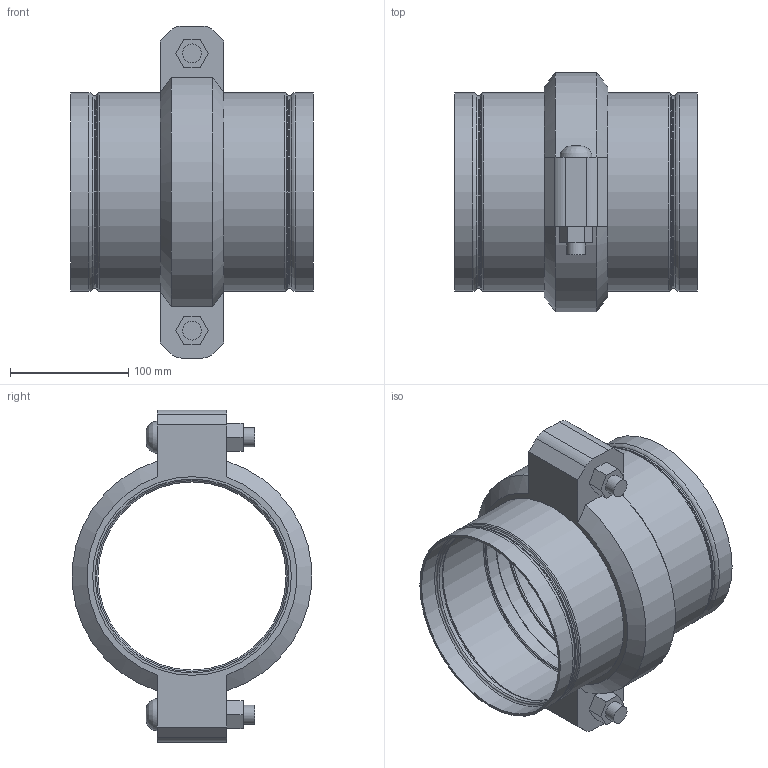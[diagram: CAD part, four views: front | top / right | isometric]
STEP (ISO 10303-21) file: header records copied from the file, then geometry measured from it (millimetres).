
FILE_DESCRIPTION(/* description */ ('VIC STRENGTHIN 100 EXPANSION JOINT 1 COUPLING NEUTRAL STYLE E155 (ST1)','CAx-IF Rec.Pracs.---Representation and Presentation of Product Manufacturing Information (PMI)---4.0---2014-10-13'),/* implementation_level */ '2;1');
FILE_NAME(/* name */ 'C:\Users\Vjadhav\AppData\Roaming\Autodesk\ApplicationPlugins\Victaulic.Temp\A726\Victaulic_SS-StrengThin 100_Expansion Joint_Neutral_1 Coupling_Style E155 (ST1)_1 Coup_Neut_6 (150).stp',/* time_stamp */ '2021-07-20T17:38:48+05:00',/* author */ ('kkamble'),/* organization */ ('Victaulic'),/* preprocessor_version */ 'ST-DEVELOPER v17.2',/* originating_system */ 'Autodesk Inventor 2019',/* authorisation */ '');
FILE_SCHEMA (('AP242_MANAGED_MODEL_BASED_3D_ENGINEERING_MIM_LF { 1 0 10303 442 1 1 4 }'));
Length unit declared in the file: inch
Products named in the file (3): E155-06.0; E494G-06.0; 075-06.0
Assembly tree (3 placements, depth 2):
  E155-06.0
    E494G-06.0  x2
    075-06.0
Bounding box: 205.74 x 202.46 x 281.18 mm (x, y, z)
Volume: 978654.4 mm3; surface area: 339281.9 mm2
Topology: 3 solids, 5 shells, 125 faces, 355 edges, 256 vertices
Faces by surface type: plane 48, cylinder 35, torus 32, cone 8, bspline 2
Full cylindrical faces by diameter (mm): 15.875 x4, 17.424 x2, 159.258 x2, 159.944 x2, 161.925 x1, 163.271 x2, 163.957 x2, 164.262 x6, 168.275 x8
Entity records: 3250 total; most frequent: CARTESIAN_POINT 582, DIRECTION 569, ORIENTED_EDGE 488, EDGE_CURVE 244, AXIS2_PLACEMENT_3D 238, VERTEX_POINT 173, CIRCLE 143, EDGE_LOOP 111
